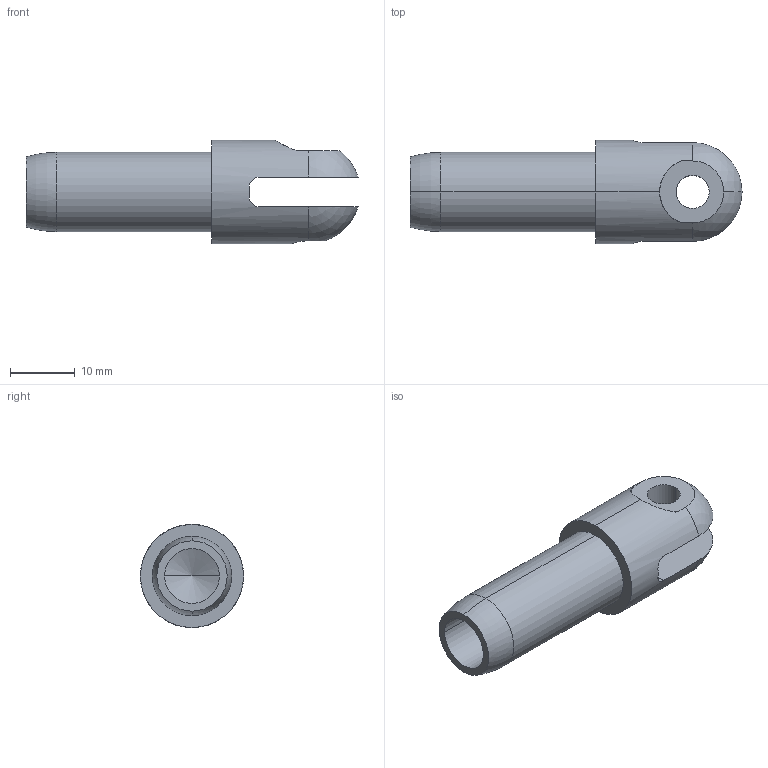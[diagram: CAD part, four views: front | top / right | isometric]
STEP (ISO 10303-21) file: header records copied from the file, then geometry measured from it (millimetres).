
FILE_DESCRIPTION (( 'STEP AP214' ), '1' );
FILE_NAME ('0.500 In. Female Clevis Connector.STEP', '2014-08-07T18:48:51', ( 'ydmin' ), ( 'Microsoft' ), 'SwSTEP 2.0', 'SolidWorks 2013', '' );
FILE_SCHEMA (( 'AUTOMOTIVE_DESIGN' ));
Length unit declared in the file: inch
Products named in the file (1): 0.500 In. Female Clevis Connector
Bounding box: 51.1 x 15.88 x 15.88 mm (x, y, z)
Volume: 4260.4 mm3; surface area: 3580.1 mm2
Topology: 1 solids, 1 shells, 28 faces, 71 edges, 44 vertices
Faces by surface type: cylinder 14, plane 6, sphere 4, torus 2, cone 2
Entity records: 1353 total; most frequent: CARTESIAN_POINT 256, DIRECTION 157, ORIENTED_EDGE 138, EDGE_CURVE 69, AXIS2_PLACEMENT_3D 67, VERTEX_POINT 44, CIRCLE 38, EDGE_LOOP 33
